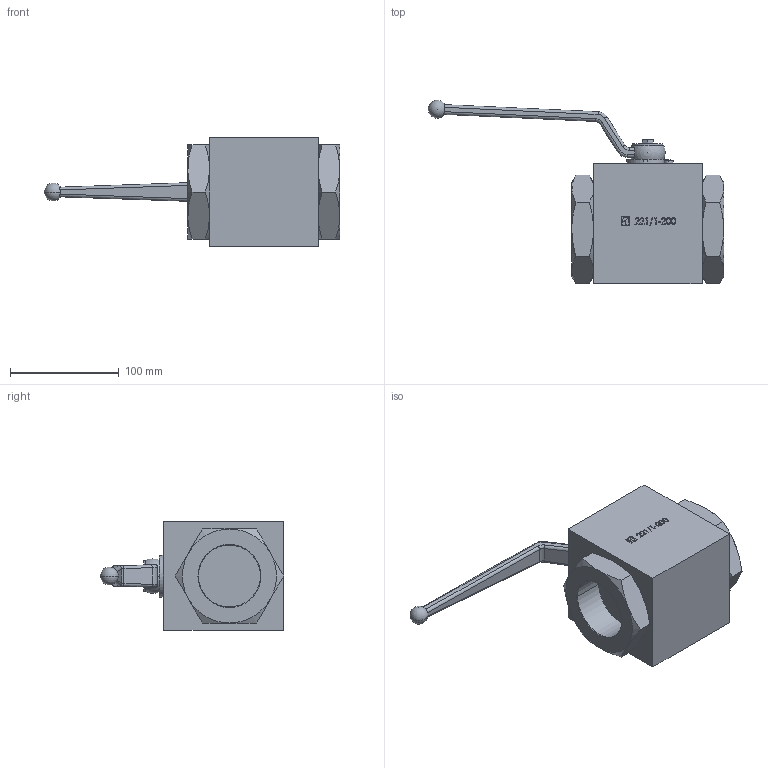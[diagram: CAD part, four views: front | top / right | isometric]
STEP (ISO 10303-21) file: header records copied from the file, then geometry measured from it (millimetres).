
FILE_DESCRIPTION (( 'STEP AP214' ), '1' );
FILE_NAME ('221-1-200.STEP', '2015-05-15T13:10:47', ( '' ), ( '' ), 'SwSTEP 2.0', 'SolidWorks 2014', '' );
FILE_SCHEMA (( 'AUTOMOTIVE_DESIGN' ));
Length unit declared in the file: millimetre
Products named in the file (1): 221-1-200
Bounding box: 272.25 x 169 x 100 mm (x, y, z)
Surface area: 99240.7 mm2 (no closed solid volume)
Topology: 0 solids, 4 shells, 183 faces, 554 edges, 374 vertices
Faces by surface type: plane 92, bspline 41, cylinder 31, cone 12, sphere 5, torus 2
Entity records: 11234 total; most frequent: CARTESIAN_POINT 4680, ORIENTED_EDGE 969, DIRECTION 790, EDGE_CURVE 541, VERTEX_POINT 366, VECTOR 310, LINE 310, AXIS2_PLACEMENT_3D 240
